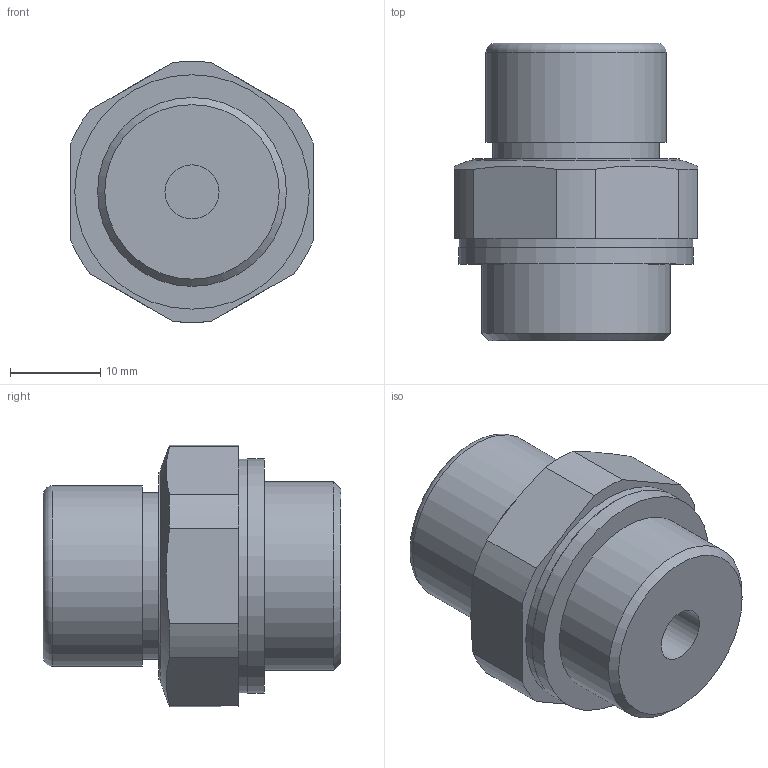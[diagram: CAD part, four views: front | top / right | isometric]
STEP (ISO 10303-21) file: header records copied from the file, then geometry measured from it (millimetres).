
FILE_DESCRIPTION( ( 'STEP AP203' ), '1' );
FILE_NAME( 'C:/Temp/Ganter_Step_05_03_2020/data/3_5/gn881/Breather valve GN 881-G1_2-200-MS-M.stp', '2020-03-12T13:42:37', ( 'License CC BY-ND 4.0' ), ( 'CADENAS' ), ' ', 'PARTsolutions', ' ' );
FILE_SCHEMA( ( 'CONFIG_CONTROL_DESIGN' ) );
Length unit declared in the file: millimetre
Products named in the file (1): _Breather valve GN 881-G1/2-200-MS-M
Bounding box: 27 x 33 x 28.98 mm (x, y, z)
Volume: 13270.5 mm3; surface area: 3897 mm2
Topology: 1 solids, 1 shells, 33 faces, 69 edges, 46 vertices
Faces by surface type: plane 16, cylinder 14, cone 2, torus 1
Full cylindrical faces by diameter (mm): 6 x1, 18.5 x1, 19 x1, 20 x1, 20.955 x1, 23 x1, 25.9 x1, 26 x1
Entity records: 870 total; most frequent: CARTESIAN_POINT 158, DIRECTION 148, ORIENTED_EDGE 110, AXIS2_PLACEMENT_3D 65, EDGE_CURVE 55, EDGE_LOOP 52, VERTEX_POINT 43, FACE_OUTER_BOUND 42
